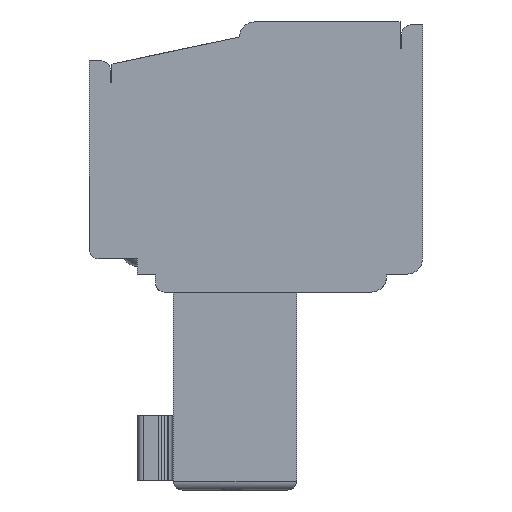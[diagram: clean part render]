
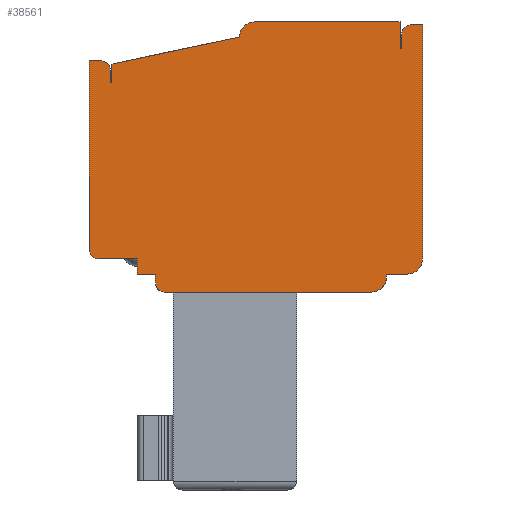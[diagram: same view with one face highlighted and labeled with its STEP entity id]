
A CAD part, left-side view. The second image highlights one B-rep face of the part: STEP entity #38561.
In plain terms, the highlighted planar face has unit normal (-1, 0, 0).
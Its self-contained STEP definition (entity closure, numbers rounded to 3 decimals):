
#87=DIRECTION('',(0.,0.,-1.));
#88=VECTOR('',#87,6.3);
#89=CARTESIAN_POINT('',(-40.4,4.75,4.1));
#90=LINE('',#89,#88);
#2402=DIRECTION('',(0.,0.,-1.));
#2403=VECTOR('',#2402,0.9);
#2404=CARTESIAN_POINT('',(-40.4,-5.6,5.4));
#2405=LINE('',#2404,#2403);
#2406=DIRECTION('',(0.,-1.,0.));
#2407=VECTOR('',#2406,0.05);
#2408=CARTESIAN_POINT('',(-40.4,-5.6,4.5));
#2409=LINE('',#2408,#2407);
#2410=DIRECTION('',(0.,0.,-1.));
#2411=VECTOR('',#2410,0.5);
#2412=CARTESIAN_POINT('',(-40.4,-5.65,5.));
#2413=LINE('',#2412,#2411);
#2414=CARTESIAN_POINT('',(-40.4,-5.95,5.));
#2415=DIRECTION('',(-1.,0.,0.));
#2416=DIRECTION('',(0.,0.,1.));
#2417=AXIS2_PLACEMENT_3D('',#2414,#2415,#2416);
#2419=DIRECTION('',(0.,1.,0.));
#2420=VECTOR('',#2419,0.4);
#2421=CARTESIAN_POINT('',(-40.4,-6.35,5.3));
#2422=LINE('',#2421,#2420);
#2423=DIRECTION('',(0.,0.,1.));
#2424=VECTOR('',#2423,7.8);
#2425=CARTESIAN_POINT('',(-40.4,-6.35,-2.5));
#2426=LINE('',#2425,#2424);
#2427=CARTESIAN_POINT('',(-40.4,-5.85,-2.5));
#2428=DIRECTION('',(-1.,0.,0.));
#2429=DIRECTION('',(0.,0.,-1.));
#2430=AXIS2_PLACEMENT_3D('',#2427,#2428,#2429);
#2432=DIRECTION('',(0.,-1.,0.));
#2433=VECTOR('',#2432,0.7);
#2434=CARTESIAN_POINT('',(-40.4,-5.15,-3.));
#2435=LINE('',#2434,#2433);
#2436=DIRECTION('',(0.,0.,1.));
#2437=VECTOR('',#2436,0.1);
#2438=CARTESIAN_POINT('',(-40.4,-5.15,-3.1));
#2439=LINE('',#2438,#2437);
#2440=CARTESIAN_POINT('',(-40.4,-4.65,-3.1));
#2441=DIRECTION('',(-1.,0.,0.));
#2442=DIRECTION('',(0.,0.,-1.));
#2443=AXIS2_PLACEMENT_3D('',#2440,#2441,#2442);
#2445=DIRECTION('',(0.,-1.,0.));
#2446=VECTOR('',#2445,6.9);
#2447=CARTESIAN_POINT('',(-40.4,2.25,-3.6));
#2448=LINE('',#2447,#2446);
#2449=CARTESIAN_POINT('',(-40.4,2.25,-3.3));
#2450=DIRECTION('',(-1.,0.,0.));
#2451=DIRECTION('',(0.,1.,0.));
#2452=AXIS2_PLACEMENT_3D('',#2449,#2450,#2451);
#2454=DIRECTION('',(0.,0.,-1.));
#2455=VECTOR('',#2454,0.3);
#2456=CARTESIAN_POINT('',(-40.4,2.55,-3.));
#2457=LINE('',#2456,#2455);
#2458=DIRECTION('',(0.,-1.,0.));
#2459=VECTOR('',#2458,0.6);
#2460=CARTESIAN_POINT('',(-40.4,3.15,-3.));
#2461=LINE('',#2460,#2459);
#2462=DIRECTION('',(0.,0.,-1.));
#2463=VECTOR('',#2462,0.5);
#2464=CARTESIAN_POINT('',(-40.4,3.15,-2.5));
#2465=LINE('',#2464,#2463);
#2466=DIRECTION('',(0.,1.,0.));
#2467=VECTOR('',#2466,1.3);
#2468=CARTESIAN_POINT('',(-40.4,3.15,-2.5));
#2469=LINE('',#2468,#2467);
#2470=CARTESIAN_POINT('',(-40.4,4.45,-2.2));
#2471=DIRECTION('',(1.,0.,0.));
#2472=DIRECTION('',(0.,0.,-1.));
#2473=AXIS2_PLACEMENT_3D('',#2470,#2471,#2472);
#2475=DIRECTION('',(0.,1.,0.));
#2476=VECTOR('',#2475,0.4);
#2477=CARTESIAN_POINT('',(-40.4,4.35,4.1));
#2478=LINE('',#2477,#2476);
#2479=CARTESIAN_POINT('',(-40.4,4.35,3.8));
#2480=DIRECTION('',(-1.,0.,0.));
#2481=DIRECTION('',(0.,-1.,0.));
#2482=AXIS2_PLACEMENT_3D('',#2479,#2480,#2481);
#2484=DIRECTION('',(0.,0.,1.));
#2485=VECTOR('',#2484,0.412);
#2486=CARTESIAN_POINT('',(-40.4,4.05,3.388));
#2487=LINE('',#2486,#2485);
#2488=DIRECTION('',(0.,-1.,0.));
#2489=VECTOR('',#2488,0.05);
#2490=CARTESIAN_POINT('',(-40.4,4.05,3.388));
#2491=LINE('',#2490,#2489);
#2492=DIRECTION('',(0.,0.,1.));
#2493=VECTOR('',#2492,0.612);
#2494=CARTESIAN_POINT('',(-40.4,4.,3.388));
#2495=LINE('',#2494,#2493);
#2496=DIRECTION('',(0.,-0.978,0.207));
#2497=VECTOR('',#2496,4.344);
#2498=CARTESIAN_POINT('',(-40.4,4.,4.));
#2499=LINE('',#2498,#2497);
#2500=CARTESIAN_POINT('',(-40.4,-0.75,4.9));
#2501=DIRECTION('',(-1.,0.,0.));
#2502=DIRECTION('',(0.,0.,1.));
#2503=AXIS2_PLACEMENT_3D('',#2500,#2501,#2502);
#2505=DIRECTION('',(0.,-1.,0.));
#2506=VECTOR('',#2505,4.85);
#2507=CARTESIAN_POINT('',(-40.4,-0.75,5.4));
#2508=LINE('',#2507,#2506);
#31444=CARTESIAN_POINT('',(-40.4,4.05,3.8));
#31445=CARTESIAN_POINT('',(-40.4,4.35,4.1));
#31446=VERTEX_POINT('',#31444);
#31447=VERTEX_POINT('',#31445);
#31448=CARTESIAN_POINT('',(-40.4,4.75,4.1));
#31449=VERTEX_POINT('',#31448);
#31450=CARTESIAN_POINT('',(-40.4,-5.85,-3.));
#31451=CARTESIAN_POINT('',(-40.4,-6.35,-2.5));
#31452=VERTEX_POINT('',#31450);
#31453=VERTEX_POINT('',#31451);
#31454=CARTESIAN_POINT('',(-40.4,-6.35,5.3));
#31455=VERTEX_POINT('',#31454);
#31456=CARTESIAN_POINT('',(-40.4,-5.95,5.3));
#31457=VERTEX_POINT('',#31456);
#31458=CARTESIAN_POINT('',(-40.4,-5.65,5.));
#31459=VERTEX_POINT('',#31458);
#31476=CARTESIAN_POINT('',(-40.4,3.15,-3.));
#31478=VERTEX_POINT('',#31476);
#31630=CARTESIAN_POINT('',(-40.4,2.55,-3.3));
#31631=CARTESIAN_POINT('',(-40.4,2.25,-3.6));
#31632=VERTEX_POINT('',#31630);
#31633=VERTEX_POINT('',#31631);
#31634=CARTESIAN_POINT('',(-40.4,-4.65,-3.6));
#31635=VERTEX_POINT('',#31634);
#31636=CARTESIAN_POINT('',(-40.4,-5.15,-3.1));
#31637=VERTEX_POINT('',#31636);
#31638=CARTESIAN_POINT('',(-40.4,2.55,-3.));
#31639=VERTEX_POINT('',#31638);
#31640=CARTESIAN_POINT('',(-40.4,-5.15,-3.));
#31641=VERTEX_POINT('',#31640);
#31668=CARTESIAN_POINT('',(-40.4,4.45,-2.5));
#31669=CARTESIAN_POINT('',(-40.4,4.75,-2.2));
#31670=VERTEX_POINT('',#31668);
#31671=VERTEX_POINT('',#31669);
#31676=CARTESIAN_POINT('',(-40.4,3.15,-2.5));
#31677=VERTEX_POINT('',#31676);
#33885=CARTESIAN_POINT('',(-40.4,4.,4.));
#33887=VERTEX_POINT('',#33885);
#33889=CARTESIAN_POINT('',(-40.4,-5.6,5.4));
#33891=VERTEX_POINT('',#33889);
#33893=CARTESIAN_POINT('',(-40.4,-0.75,5.4));
#33894=CARTESIAN_POINT('',(-40.4,-0.25,4.9));
#33895=VERTEX_POINT('',#33893);
#33896=VERTEX_POINT('',#33894);
#34545=CARTESIAN_POINT('',(-40.4,-5.65,4.5));
#34547=VERTEX_POINT('',#34545);
#34550=CARTESIAN_POINT('',(-40.4,4.05,3.388));
#34552=VERTEX_POINT('',#34550);
#35081=CARTESIAN_POINT('',(-40.4,4.,3.388));
#35083=VERTEX_POINT('',#35081);
#35085=CARTESIAN_POINT('',(-40.4,-5.6,4.5));
#35087=VERTEX_POINT('',#35085);
#38506=CARTESIAN_POINT('',(-40.4,0.,0.));
#38507=DIRECTION('',(-1.,0.,0.));
#38508=DIRECTION('',(0.,-1.,0.));
#38509=AXIS2_PLACEMENT_3D('',#38506,#38507,#38508);
#38510=PLANE('',#38509);
#38512=ORIENTED_EDGE('',*,*,#38511,.T.);
#38513=ORIENTED_EDGE('',*,*,#38498,.T.);
#38514=ORIENTED_EDGE('',*,*,#38487,.F.);
#38516=ORIENTED_EDGE('',*,*,#38515,.F.);
#38518=ORIENTED_EDGE('',*,*,#38517,.F.);
#38520=ORIENTED_EDGE('',*,*,#38519,.F.);
#38522=ORIENTED_EDGE('',*,*,#38521,.F.);
#38524=ORIENTED_EDGE('',*,*,#38523,.F.);
#38526=ORIENTED_EDGE('',*,*,#38525,.F.);
#38528=ORIENTED_EDGE('',*,*,#38527,.F.);
#38530=ORIENTED_EDGE('',*,*,#38529,.F.);
#38532=ORIENTED_EDGE('',*,*,#38531,.F.);
#38534=ORIENTED_EDGE('',*,*,#38533,.F.);
#38536=ORIENTED_EDGE('',*,*,#38535,.F.);
#38537=ORIENTED_EDGE('',*,*,#37116,.F.);
#38539=ORIENTED_EDGE('',*,*,#38538,.T.);
#38541=ORIENTED_EDGE('',*,*,#38540,.T.);
#38542=ORIENTED_EDGE('',*,*,#36681,.F.);
#38544=ORIENTED_EDGE('',*,*,#38543,.F.);
#38546=ORIENTED_EDGE('',*,*,#38545,.F.);
#38548=ORIENTED_EDGE('',*,*,#38547,.F.);
#38550=ORIENTED_EDGE('',*,*,#38549,.T.);
#38552=ORIENTED_EDGE('',*,*,#38551,.T.);
#38554=ORIENTED_EDGE('',*,*,#38553,.T.);
#38556=ORIENTED_EDGE('',*,*,#38555,.F.);
#38558=ORIENTED_EDGE('',*,*,#38557,.T.);
#38559=EDGE_LOOP('',(#38512,#38513,#38514,#38516,#38518,#38520,#38522,#38524,
#38526,#38528,#38530,#38532,#38534,#38536,#38537,#38539,#38541,#38542,#38544,
#38546,#38548,#38550,#38552,#38554,#38556,#38558));
#38560=FACE_OUTER_BOUND('',#38559,.F.);
#38561=ADVANCED_FACE('',(#38560),#38510,.T.);
#2418=CIRCLE('',#2417,0.3);
#2431=CIRCLE('',#2430,0.5);
#2444=CIRCLE('',#2443,0.5);
#2453=CIRCLE('',#2452,0.3);
#2474=CIRCLE('',#2473,0.3);
#2483=CIRCLE('',#2482,0.3);
#2504=CIRCLE('',#2503,0.5);
#36681=EDGE_CURVE('',#31449,#31671,#90,.T.);
#37116=EDGE_CURVE('',#31677,#31478,#2465,.T.);
#38487=EDGE_CURVE('',#31459,#34547,#2413,.T.);
#38498=EDGE_CURVE('',#35087,#34547,#2409,.T.);
#38511=EDGE_CURVE('',#33891,#35087,#2405,.T.);
#38515=EDGE_CURVE('',#31457,#31459,#2418,.T.);
#38517=EDGE_CURVE('',#31455,#31457,#2422,.T.);
#38519=EDGE_CURVE('',#31453,#31455,#2426,.T.);
#38521=EDGE_CURVE('',#31452,#31453,#2431,.T.);
#38523=EDGE_CURVE('',#31641,#31452,#2435,.T.);
#38525=EDGE_CURVE('',#31637,#31641,#2439,.T.);
#38527=EDGE_CURVE('',#31635,#31637,#2444,.T.);
#38529=EDGE_CURVE('',#31633,#31635,#2448,.T.);
#38531=EDGE_CURVE('',#31632,#31633,#2453,.T.);
#38533=EDGE_CURVE('',#31639,#31632,#2457,.T.);
#38535=EDGE_CURVE('',#31478,#31639,#2461,.T.);
#38538=EDGE_CURVE('',#31677,#31670,#2469,.T.);
#38540=EDGE_CURVE('',#31670,#31671,#2474,.T.);
#38543=EDGE_CURVE('',#31447,#31449,#2478,.T.);
#38545=EDGE_CURVE('',#31446,#31447,#2483,.T.);
#38547=EDGE_CURVE('',#34552,#31446,#2487,.T.);
#38549=EDGE_CURVE('',#34552,#35083,#2491,.T.);
#38551=EDGE_CURVE('',#35083,#33887,#2495,.T.);
#38553=EDGE_CURVE('',#33887,#33896,#2499,.T.);
#38555=EDGE_CURVE('',#33895,#33896,#2504,.T.);
#38557=EDGE_CURVE('',#33895,#33891,#2508,.T.);
